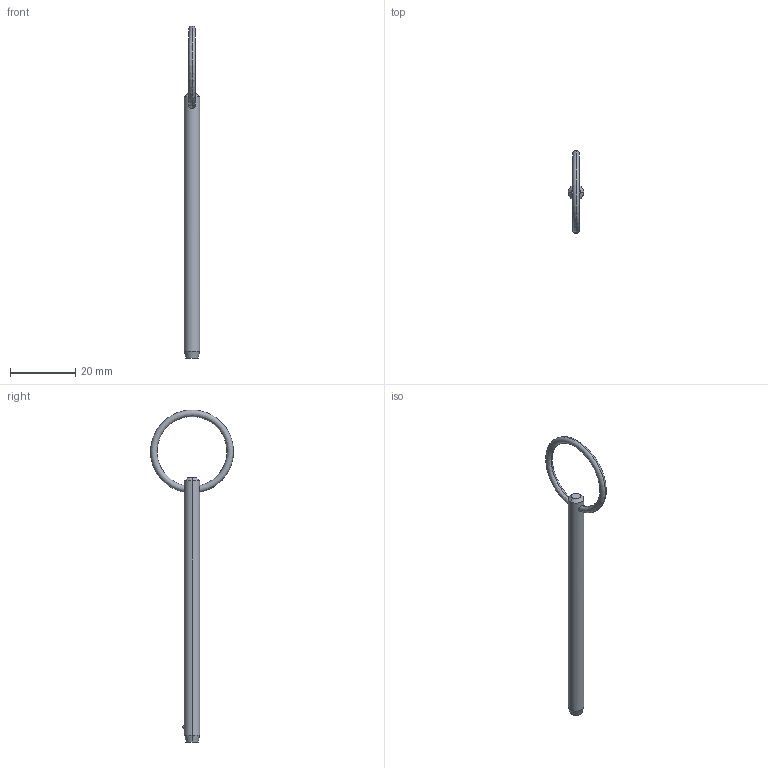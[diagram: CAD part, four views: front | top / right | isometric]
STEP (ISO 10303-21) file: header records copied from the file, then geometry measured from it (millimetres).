
FILE_DESCRIPTION (( 'STEP AP203' ), '1' );
FILE_NAME ('P1250.018-280.step', '2019-07-29T19:34:59', ( '' ), ( '' ), 'SwSTEP 2.0', 'SolidWorks 2017', '' );
FILE_SCHEMA (( 'CONFIG_CONTROL_DESIGN' ));
Length unit declared in the file: millimetre
Products named in the file (1): P1250.018-280
Bounding box: 4.76 x 25.4 x 101.58 mm (x, y, z)
Volume: 1642.5 mm3; surface area: 1653.3 mm2
Topology: 1 solids, 1 shells, 12 faces, 28 edges, 17 vertices
Faces by surface type: cone 4, torus 2, sphere 2, cylinder 2, plane 2
Entity records: 471 total; most frequent: CARTESIAN_POINT 138, DIRECTION 56, ORIENTED_EDGE 48, AXIS2_PLACEMENT_3D 25, EDGE_CURVE 24, VERTEX_POINT 15, EDGE_LOOP 15, FACE_OUTER_BOUND 12
